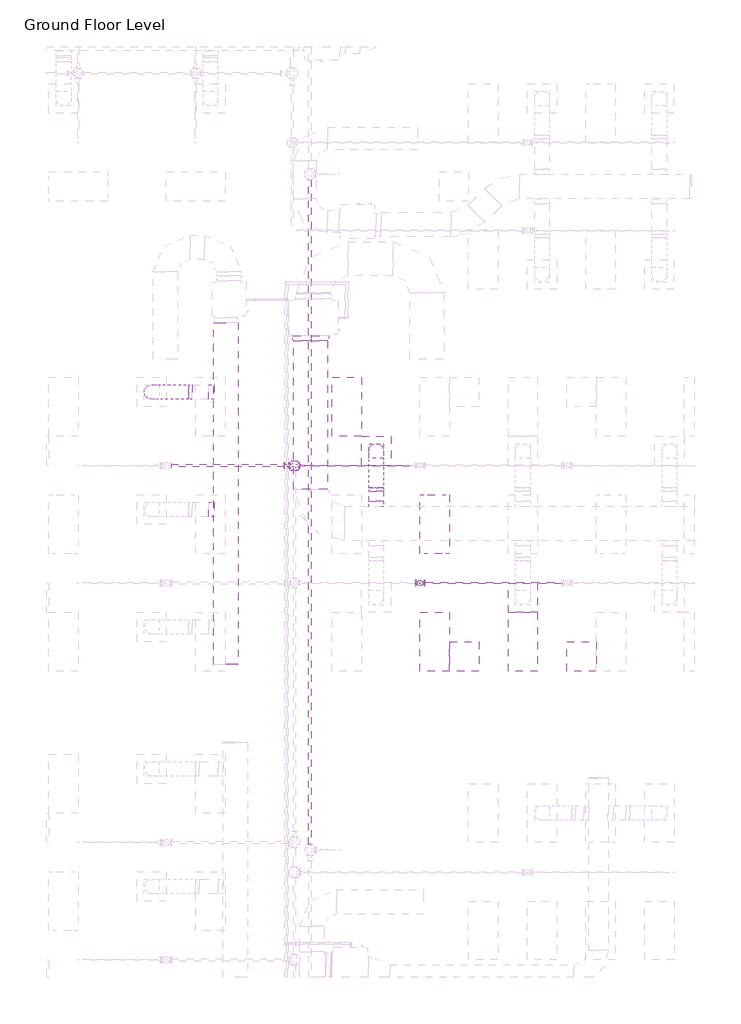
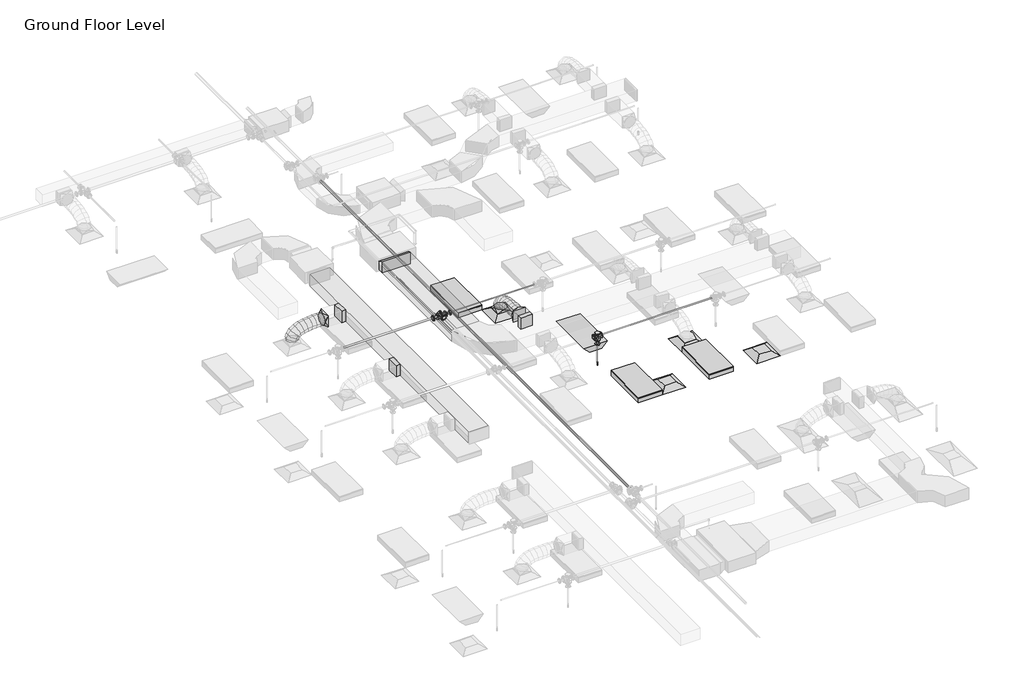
# One storey, part 30 of 66: 7 duct fittings, 5 duct segments, 5 pipe fittings, 5 pipe segments, 4 air terminals, 4 light fixtures, 1 fire suppression terminal.
"""IFC4 building model written with IfcOpenShell, lengths in millimetres."""

from ifc_helpers import new_model, si_unit, point, frame, frame_2d, origin, place, context, project, spatial, polyline, circle_curve, ellipse_curve, trimmed, segment, composite_curve, outline, extrude, transform, mapped, element, save
from ifc_brep_helpers import plane_surface, cylinder_surface, advanced_brep
from components import m_return_diffuser_600_x_600_face_300_x_300_connection_ff221211, m_rectangular_takeoff_standard_cb0ccb98, m_rectangular_takeoff_standard_2be5eba1, m_rectangular_transition_angle_45_degree_dd3c9227, m_rectangular_to_round_transition_angle_45_degree_641efff0, m_sprinkler_dry_pendent_hosted_15_mm_dry_pendent_9bda8e11, m_emergency_recessed_lighting_fixture_600x1200_277_5b10b25d, m_troffer_light_parabolic_rectangular1_0600x1200mm_4_lamp_86473d4a, m_reducer_flanged_cs_class_150_standard_ccf252ad, m_reducer_flanged_cs_class_150_standard_678fb8eb, m_reducer_flanged_cs_class_150_standard_84a20e65, m_tee_round_base_flanged_cs_class_150_standard_7e5987a1, m_tee_round_base_flanged_cs_class_150_standard_9c9133d0

model = new_model("IFC4")

# Units and contexts
model_context = context("Model", 3, world=origin())
ifc_project = project(units=[si_unit("LENGTHUNIT", "METRE", prefix="MILLI")], contexts=[model_context])

# Site, building, storey
site = spatial("IfcSite", under=ifc_project)
building = spatial("IfcBuilding", under=site)
storey = spatial("IfcBuildingStorey", under=building, Name="Ground Floor Level", Elevation=900.0)

# Air terminals
placement = place(None, origin())
m_return_diffuser_600_x_600_face_300_x_300_connection_shape = m_return_diffuser_600_x_600_face_300_x_300_connection_ff221211(model_context)
element("IfcAirTerminal", 1, ObjectType="M_Return Diffuser : 600 x 600 Face 300 x 300 Connection", at=placement, inside=storey, context=model_context, shape_type="MappedRepresentation", body=[
    mapped(m_return_diffuser_600_x_600_face_300_x_300_connection_shape, transform((9152.7672395, -14864.7846466, 3650.0), x_axis=(1.0, 0.0, 0.0), y_axis=(0.0, 1.0, 0.0), z_axis=(0.0, 0.0, 1.0))),
])
element("IfcAirTerminal", 2, ObjectType="M_Return Diffuser : 600 x 600 Face 300 x 300 Connection", at=placement, inside=storey, context=model_context, shape_type="MappedRepresentation", body=[
    mapped(m_return_diffuser_600_x_600_face_300_x_300_connection_shape, transform((11552.7672395, -14864.7846466, 3650.0), x_axis=(1.0, 0.0, 0.0), y_axis=(0.0, 1.0, 0.0), z_axis=(0.0, 0.0, 1.0))),
])
element("IfcAirTerminal", 3, ObjectType="M_Supply Diffuser : 600 x 600 Face 300 x 300 Connection", at=placement, inside=storey, context=model_context, shape_type="MappedRepresentation", body=[
    mapped(m_return_diffuser_600_x_600_face_300_x_300_connection_shape, transform((7352.7672395, -10664.7846466, 3650.0), x_axis=(1.0, 0.0, 0.0), y_axis=(0.0, 1.0, 0.0), z_axis=(0.0, 0.0, 1.0))),
])
element("IfcAirTerminal", 4, ObjectType="M_Supply Diffuser : 600 x 600 Face 300 x 300 Connection", at=placement, inside=storey, context=model_context, shape_type="MappedRepresentation", body=[
    mapped(m_return_diffuser_600_x_600_face_300_x_300_connection_shape, transform((10352.7672395, -13664.7846466, 3650.0), x_axis=(1.0, 0.0, 0.0), y_axis=(0.0, 1.0, 0.0), z_axis=(0.0, 0.0, 1.0))),
])

# Duct fittings
m_rectangular_takeoff_standard_shape = m_rectangular_takeoff_standard_cb0ccb98(model_context)
element("IfcDuctFitting", 5, ObjectType="M_Rectangular Takeoff : Standard", at=placement, inside=storey, context=model_context, shape_type="MappedRepresentation", body=[
    mapped(m_rectangular_takeoff_standard_shape, transform((7352.7672395, -11799.3358641, 4099.9875), x_axis=(0.0, 1.0, 0.0), y_axis=(1.0, 0.0, 0.0), z_axis=(0.0, 0.0, -1.0))),
])
m_rectangular_takeoff_standard_2_shape = m_rectangular_takeoff_standard_2be5eba1(model_context)
element("IfcDuctFitting", 6, ObjectType="M_Rectangular Takeoff : Standard", at=placement, inside=storey, context=model_context, shape_type="MappedRepresentation", body=[
    mapped(m_rectangular_takeoff_standard_2_shape, transform((4032.1581888, -9464.7846466, 4099.9974383), x_axis=(-1.0, 0.0, 0.0), y_axis=(0.0, 1.0, 0.0), z_axis=(0.0, 0.0, -1.0))),
])
element("IfcDuctFitting", 7, ObjectType="M_Rectangular Takeoff : Standard", at=placement, inside=storey, context=model_context, shape_type="MappedRepresentation", body=[
    mapped(m_rectangular_takeoff_standard_2_shape, transform((4032.1581888, -11864.7846466, 4099.9931113), x_axis=(-1.0, 0.0, 0.0), y_axis=(0.0, 1.0, 0.0), z_axis=(0.0, 0.0, -1.0))),
])
m_rectangular_transition_angle_45_degree_shape = m_rectangular_transition_angle_45_degree_dd3c9227(model_context)
element("IfcDuctFitting", 8, ObjectType="M_Rectangular Transition - Angle : 45 Degree", at=placement, inside=storey, context=model_context, shape_type="MappedRepresentation", body=[
    mapped(m_rectangular_transition_angle_45_degree_shape, transform((6009.9139492, -8309.3358641, 4100.0), x_axis=(0.0, -1.0, 0.0), y_axis=(1.0, 0.0, 0.0), z_axis=(0.0, 0.0, 1.0))),
])
m_rectangular_to_round_transition_angle_45_degree_shape = m_rectangular_to_round_transition_angle_45_degree_641efff0(model_context)
element("IfcDuctFitting", 9, ObjectType="M_Rectangular to Round Transition - Angle : 45 Degree", at=placement, inside=storey, context=model_context, shape_type="MappedRepresentation", body=[
    mapped(m_rectangular_to_round_transition_angle_45_degree_shape, transform((3590.1057325, -9464.7846466, 4099.9974383), x_axis=(-1.0, 0.0, 0.0), y_axis=(0.0, -1.0, 0.0), z_axis=(0.0, 0.0, 1.0))),
])
element("IfcDuctFitting", 10, ObjectType="M_Rectangular to Round Transition - Angle : 45 Degree", at=placement, inside=storey, context=model_context, shape_type="MappedRepresentation", body=[
    mapped(m_rectangular_to_round_transition_angle_45_degree_shape, transform((7352.7672395, -10664.7846466, 3751.6), x_axis=(0.0, 0.0, 1.0), y_axis=(-1.0, 0.0, 0.0), z_axis=(0.0, -1.0, 0.0))),
])
element("IfcDuctFitting", 11, ObjectType="M_Rectangular to Round Transition - Angle : 45 Degree", at=placement, inside=storey, context=model_context, shape_type="MappedRepresentation", body=[
    mapped(m_rectangular_to_round_transition_angle_45_degree_shape, transform((7352.7672395, -11492.1330779, 4099.9875), x_axis=(0.0, 1.0, 0.0), y_axis=(-1.0, 0.0, 0.0), z_axis=(0.0, 0.0, 1.0))),
])

# Duct segments
element("IfcDuctSegment", 12, ObjectType="Flex - Round", at=placement, inside=storey, context=model_context, shape_type="AdvancedBrep", body=[
    advanced_brep(
    [(2912.7672395, -9464.7846466, 3826.6), (2762.7672395, -9614.7846466, 3826.6), (2612.7672395, -9464.7846466, 3826.6), (2762.7672395, -9314.7846466, 3826.6), (2912.7672395, -9464.7846466, 3832.2944653), (2762.7672395, -9614.7846466, 3857.937819), (2612.7672395, -9464.7846466, 3883.5811727), (2762.7672395, -9314.7846466, 3857.937819), (2913.5210607, -9464.7846466, 3834.4347571), (2779.7832431, -9614.7846466, 3906.2506195), (2646.0454255, -9464.7846466, 3978.066482), (2779.7832431, -9314.7846466, 3906.2506195), (2931.1727776, -9464.7846466, 3857.8014637), (2826.9673168, -9614.7846466, 3968.7111959), (2722.761856, -9464.7846466, 4079.620928), (2826.9673168, -9314.7846466, 3968.7111959), (2967.4569198, -9464.7846466, 3881.8155831), (2898.5235552, -9614.7846466, 4016.0696268), (2829.5901905, -9464.7846466, 4150.3236705), (2898.5235552, -9314.7846466, 4016.0696268), (3032.2160605, -9464.7846466, 3906.4914754), (2988.6560526, -9614.7846466, 4050.4138102), (2945.0960447, -9464.7846466, 4194.336145), (2988.6560526, -9314.7846466, 4050.4138102), (3118.1291117, -9464.7846466, 3926.0410022), (3091.5689036, -9614.7846466, 4073.8316439), (3065.0086955, -9464.7846466, 4221.6222855), (3091.5689036, -9314.7846466, 4073.8316439), (3216.6164827, -9464.7846466, 3939.1067008), (3201.4662026, -9614.7846466, 4088.4110257), (3186.3159225, -9464.7846466, 4237.7153505), (3201.4662026, -9314.7846466, 4088.4110257), (3320.0568882, -9464.7846466, 3946.3967129), (3312.5520441, -9614.7846466, 4096.2398535), (3305.0472001, -9464.7846466, 4246.0829941), (3312.5520441, -9314.7846466, 4096.2398535), (3421.7217312, -9464.7846466, 3949.4197495), (3419.0305226, -9614.7846466, 4099.4060251), (3416.339314, -9464.7846466, 4249.3923007), (3419.0305226, -9314.7846466, 4099.4060251), (3516.0290748, -9464.7846466, 3950.0002802), (3515.1057325, -9614.7846466, 4099.9974383), (3514.1823902, -9464.7846466, 4249.9945964), (3515.1057325, -9314.7846466, 4099.9974383)],
    [
        (0, 1, circle_curve(frame((2762.7672395, -9464.7846466, 3826.6), z_axis=(0.0, 0.0, -1.0), x_axis=(1.0, 0.0, 0.0)), 150.0)),
        (1, 2, circle_curve(frame((2762.7672395, -9464.7846466, 3826.6), z_axis=(0.0, 0.0, -1.0), x_axis=(1.0, 0.0, 0.0)), 150.0)),
        (2, 3, circle_curve(frame((2762.7672395, -9464.7846466, 3826.6), z_axis=(0.0, 0.0, -1.0), x_axis=(1.0, 0.0, 0.0)), 150.0)),
        (3, 0, circle_curve(frame((2762.7672395, -9464.7846466, 3826.6), z_axis=(0.0, 0.0, -1.0), x_axis=(1.0, 0.0, 0.0)), 150.0)),
        (0, 4),
        (4, 5, ellipse_curve(frame((2762.7672395, -9464.7846466, 3857.937819), z_axis=(-0.1685109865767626, 0.0, -0.9856997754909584), x_axis=(0.9856997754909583, 0.0, -0.16851098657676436)), 152.1761532, 150.0)),
        (5, 1),
        (5, 6, ellipse_curve(frame((2762.7672395, -9464.7846466, 3857.937819), z_axis=(-0.1685109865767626, 0.0, -0.9856997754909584), x_axis=(0.9856997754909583, 0.0, -0.16851098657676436)), 152.1761532, 150.0)),
        (6, 2),
        (6, 7, ellipse_curve(frame((2762.7672395, -9464.7846466, 3857.937819), z_axis=(-0.1685109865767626, 0.0, -0.9856997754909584), x_axis=(0.9856997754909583, 0.0, -0.16851098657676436)), 152.1761532, 150.0)),
        (7, 3),
        (7, 4, ellipse_curve(frame((2762.7672395, -9464.7846466, 3857.937819), z_axis=(-0.1685109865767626, 0.0, -0.9856997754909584), x_axis=(0.9856997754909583, 0.0, -0.16851098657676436)), 152.1761532, 150.0)),
        (4, 8),
        (8, 9, ellipse_curve(frame((2779.7832431, -9464.7846466, 3906.2506195), z_axis=(-0.47309443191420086, 0.0, -0.8810117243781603), x_axis=(0.8810117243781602, 0.0, -0.4730944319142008)), 151.80027, 150.0)),
        (9, 5),
        (9, 10, ellipse_curve(frame((2779.7832431, -9464.7846466, 3906.2506195), z_axis=(-0.47309443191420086, 0.0, -0.8810117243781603), x_axis=(0.8810117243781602, 0.0, -0.4730944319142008)), 151.80027, 150.0)),
        (10, 6),
        (10, 11, ellipse_curve(frame((2779.7832431, -9464.7846466, 3906.2506195), z_axis=(-0.47309443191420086, 0.0, -0.8810117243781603), x_axis=(0.8810117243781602, 0.0, -0.4730944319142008)), 151.80027, 150.0)),
        (11, 7),
        (11, 8, ellipse_curve(frame((2779.7832431, -9464.7846466, 3906.2506195), z_axis=(-0.47309443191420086, 0.0, -0.8810117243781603), x_axis=(0.8810117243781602, 0.0, -0.4730944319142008)), 151.80027, 150.0)),
        (8, 12),
        (12, 13, ellipse_curve(frame((2826.9673168, -9464.7846466, 3968.7111959), z_axis=(-0.7287905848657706, 0.0, -0.6847366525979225), x_axis=(0.6847366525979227, 0.0, -0.7287905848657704)), 152.1832669, 150.0)),
        (13, 9),
        (13, 14, ellipse_curve(frame((2826.9673168, -9464.7846466, 3968.7111959), z_axis=(-0.7287905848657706, 0.0, -0.6847366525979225), x_axis=(0.6847366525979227, 0.0, -0.7287905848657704)), 152.1832669, 150.0)),
        (14, 10),
        (14, 15, ellipse_curve(frame((2826.9673168, -9464.7846466, 3968.7111959), z_axis=(-0.7287905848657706, 0.0, -0.6847366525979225), x_axis=(0.6847366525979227, 0.0, -0.7287905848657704)), 152.1832669, 150.0)),
        (15, 11),
        (15, 12, ellipse_curve(frame((2826.9673168, -9464.7846466, 3968.7111959), z_axis=(-0.7287905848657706, 0.0, -0.6847366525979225), x_axis=(0.6847366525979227, 0.0, -0.7287905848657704)), 152.1832669, 150.0)),
        (12, 16),
        (16, 17, ellipse_curve(frame((2898.5235552, -9464.7846466, 4016.0696268), z_axis=(-0.8895882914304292, 0.0, -0.45676325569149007), x_axis=(0.45676325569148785, 0.0, -0.8895882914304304)), 150.9170535, 150.0)),
        (17, 13),
        (17, 18, ellipse_curve(frame((2898.5235552, -9464.7846466, 4016.0696268), z_axis=(-0.8895882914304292, 0.0, -0.45676325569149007), x_axis=(0.45676325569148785, 0.0, -0.8895882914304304)), 150.9170535, 150.0)),
        (18, 14),
        (18, 19, ellipse_curve(frame((2898.5235552, -9464.7846466, 4016.0696268), z_axis=(-0.8895882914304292, 0.0, -0.45676325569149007), x_axis=(0.45676325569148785, 0.0, -0.8895882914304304)), 150.9170535, 150.0)),
        (19, 15),
        (19, 16, ellipse_curve(frame((2898.5235552, -9464.7846466, 4016.0696268), z_axis=(-0.8895882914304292, 0.0, -0.45676325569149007), x_axis=(0.45676325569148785, 0.0, -0.8895882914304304)), 150.9170535, 150.0)),
        (16, 20),
        (20, 21, ellipse_curve(frame((2988.6560526, -9464.7846466, 4050.4138102), z_axis=(-0.9571218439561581, 0.0, -0.2896856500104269), x_axis=(0.28968565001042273, 0.0, -0.9571218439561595)), 150.3699197, 150.0)),
        (21, 17),
        (21, 22, ellipse_curve(frame((2988.6560526, -9464.7846466, 4050.4138102), z_axis=(-0.9571218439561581, 0.0, -0.2896856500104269), x_axis=(0.28968565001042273, 0.0, -0.9571218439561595)), 150.3699197, 150.0)),
        (22, 18),
        (22, 23, ellipse_curve(frame((2988.6560526, -9464.7846466, 4050.4138102), z_axis=(-0.9571218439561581, 0.0, -0.2896856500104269), x_axis=(0.28968565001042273, 0.0, -0.9571218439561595)), 150.3699197, 150.0)),
        (23, 19),
        (23, 20, ellipse_curve(frame((2988.6560526, -9464.7846466, 4050.4138102), z_axis=(-0.9571218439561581, 0.0, -0.2896856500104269), x_axis=(0.28968565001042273, 0.0, -0.9571218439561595)), 150.3699197, 150.0)),
        (20, 24),
        (24, 25, ellipse_curve(frame((3091.5689036, -9464.7846466, 4073.8316439), z_axis=(-0.9842321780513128, 0.0, -0.1768813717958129), x_axis=(0.17688137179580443, 0.0, -0.9842321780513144)), 150.1583111, 150.0)),
        (25, 21),
        (25, 26, ellipse_curve(frame((3091.5689036, -9464.7846466, 4073.8316439), z_axis=(-0.9842321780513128, 0.0, -0.1768813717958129), x_axis=(0.17688137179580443, 0.0, -0.9842321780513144)), 150.1583111, 150.0)),
        (26, 22),
        (26, 27, ellipse_curve(frame((3091.5689036, -9464.7846466, 4073.8316439), z_axis=(-0.9842321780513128, 0.0, -0.1768813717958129), x_axis=(0.17688137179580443, 0.0, -0.9842321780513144)), 150.1583111, 150.0)),
        (27, 23),
        (27, 24, ellipse_curve(frame((3091.5689036, -9464.7846466, 4073.8316439), z_axis=(-0.9842321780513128, 0.0, -0.1768813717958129), x_axis=(0.17688137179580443, 0.0, -0.9842321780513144)), 150.1583111, 150.0)),
        (24, 28),
        (28, 29, ellipse_curve(frame((3201.4662026, -9464.7846466, 4088.4110257), z_axis=(-0.994891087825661, 0.0, -0.10095406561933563), x_axis=(0.10095406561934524, 0.0, -0.99489108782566)), 150.0710245, 150.0)),
        (29, 25),
        (29, 30, ellipse_curve(frame((3201.4662026, -9464.7846466, 4088.4110257), z_axis=(-0.994891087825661, 0.0, -0.10095406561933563), x_axis=(0.10095406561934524, 0.0, -0.99489108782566)), 150.0710245, 150.0)),
        (30, 26),
        (30, 31, ellipse_curve(frame((3201.4662026, -9464.7846466, 4088.4110257), z_axis=(-0.994891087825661, 0.0, -0.10095406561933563), x_axis=(0.10095406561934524, 0.0, -0.99489108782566)), 150.0710245, 150.0)),
        (31, 27),
        (31, 28, ellipse_curve(frame((3201.4662026, -9464.7846466, 4088.4110257), z_axis=(-0.994891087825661, 0.0, -0.10095406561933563), x_axis=(0.10095406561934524, 0.0, -0.99489108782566)), 150.0710245, 150.0)),
        (28, 32),
        (32, 33, ellipse_curve(frame((3312.5520441, -9464.7846466, 4096.2398535), z_axis=(-0.9987481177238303, 0.0, -0.05002196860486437), x_axis=(0.05002196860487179, 0.0, -0.9987481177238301)), 150.0309617, 150.0)),
        (33, 29),
        (33, 34, ellipse_curve(frame((3312.5520441, -9464.7846466, 4096.2398535), z_axis=(-0.9987481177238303, 0.0, -0.05002196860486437), x_axis=(0.05002196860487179, 0.0, -0.9987481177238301)), 150.0309617, 150.0)),
        (34, 30),
        (34, 35, ellipse_curve(frame((3312.5520441, -9464.7846466, 4096.2398535), z_axis=(-0.9987481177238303, 0.0, -0.05002196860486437), x_axis=(0.05002196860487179, 0.0, -0.9987481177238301)), 150.0309617, 150.0)),
        (35, 31),
        (35, 32, ellipse_curve(frame((3312.5520441, -9464.7846466, 4096.2398535), z_axis=(-0.9987481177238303, 0.0, -0.05002196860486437), x_axis=(0.05002196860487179, 0.0, -0.9987481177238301)), 150.0309617, 150.0)),
        (32, 36),
        (36, 37, ellipse_curve(frame((3419.0305226, -9464.7846466, 4099.4060251), z_axis=(-0.9998390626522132, 0.0, -0.01794014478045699), x_axis=(0.017940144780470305, 0.0, -0.9998390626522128)), 150.0104179, 150.0)),
        (37, 33),
        (37, 38, ellipse_curve(frame((3419.0305226, -9464.7846466, 4099.4060251), z_axis=(-0.9998390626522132, 0.0, -0.01794014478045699), x_axis=(0.017940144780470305, 0.0, -0.9998390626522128)), 150.0104179, 150.0)),
        (38, 34),
        (38, 39, ellipse_curve(frame((3419.0305226, -9464.7846466, 4099.4060251), z_axis=(-0.9998390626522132, 0.0, -0.01794014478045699), x_axis=(0.017940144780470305, 0.0, -0.9998390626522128)), 150.0104179, 150.0)),
        (39, 35),
        (39, 36, ellipse_curve(frame((3419.0305226, -9464.7846466, 4099.4060251), z_axis=(-0.9998390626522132, 0.0, -0.01794014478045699), x_axis=(0.017940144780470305, 0.0, -0.9998390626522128)), 150.0104179, 150.0)),
        (36, 40),
        (40, 41, circle_curve(frame((3515.1057325, -9464.7846466, 4099.9974383), z_axis=(-0.9999810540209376, 0.0, -0.006155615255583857), x_axis=(0.006155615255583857, 0.0, -0.9999810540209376)), 150.0)),
        (41, 37),
        (41, 42, circle_curve(frame((3515.1057325, -9464.7846466, 4099.9974383), z_axis=(-0.9999810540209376, 0.0, -0.006155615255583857), x_axis=(0.006155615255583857, 0.0, -0.9999810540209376)), 150.0)),
        (42, 38),
        (42, 43, circle_curve(frame((3515.1057325, -9464.7846466, 4099.9974383), z_axis=(-0.9999810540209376, 0.0, -0.006155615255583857), x_axis=(0.006155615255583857, 0.0, -0.9999810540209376)), 150.0)),
        (43, 39),
        (43, 40, circle_curve(frame((3515.1057325, -9464.7846466, 4099.9974383), z_axis=(-0.9999810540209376, 0.0, -0.006155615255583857), x_axis=(0.006155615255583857, 0.0, -0.9999810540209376)), 150.0)),
    ],
    [
        plane_surface(frame((2762.7672395, -9614.7846466, 3826.6), z_axis=(0.0, 0.0, -1.0), x_axis=(1.0, 0.0, 0.0))),
        cylinder_surface(frame((2762.7672395, -9464.7846466, 3826.6), z_axis=(0.0, 0.0, -1.0), x_axis=(1.0, 0.0, 0.0)), 150.0),
        cylinder_surface(frame((2762.7672395, -9464.7846466, 3857.937819), z_axis=(-0.3322024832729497, 0.0, -0.9432080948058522), x_axis=(0.9432080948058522, 0.0, -0.3322024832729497)), 150.0),
        cylinder_surface(frame((2779.7832431, -9464.7846466, 3906.2506195), z_axis=(-0.6027650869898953, 0.0, -0.7979186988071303), x_axis=(0.7979186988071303, 0.0, -0.6027650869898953)), 150.0),
        cylinder_surface(frame((2826.9673168, -9464.7846466, 3968.7111959), z_axis=(-0.8339051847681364, 0.0, -0.5519077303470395), x_axis=(0.5519077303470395, 0.0, -0.8339051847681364)), 150.0),
        cylinder_surface(frame((2898.5235552, -9464.7846466, 4016.0696268), z_axis=(-0.9344601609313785, 0.0, -0.3560677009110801), x_axis=(0.3560677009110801, 0.0, -0.9344601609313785)), 150.0),
        cylinder_surface(frame((2988.6560526, -9464.7846466, 4050.4138102), z_axis=(-0.9750743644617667, 0.0, -0.22187830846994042), x_axis=(0.22187830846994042, 0.0, -0.9750743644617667)), 150.0),
        cylinder_surface(frame((3091.5689036, -9464.7846466, 4073.8316439), z_axis=(-0.9913146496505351, 0.0, -0.13151146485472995), x_axis=(0.13151146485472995, 0.0, -0.9913146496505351)), 150.0),
        cylinder_surface(frame((3201.4662026, -9464.7846466, 4088.4110257), z_axis=(-0.99752581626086, 0.0, -0.07030110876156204), x_axis=(0.07030110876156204, 0.0, -0.99752581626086)), 150.0),
        cylinder_surface(frame((3312.5520441, -9464.7846466, 4096.2398535), z_axis=(-0.9995581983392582, 0.0, -0.029722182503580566), x_axis=(0.029722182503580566, 0.0, -0.9995581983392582)), 150.0),
        cylinder_surface(frame((3419.0305226, -9464.7846466, 4099.4060251), z_axis=(-0.9999810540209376, 0.0, -0.006155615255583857), x_axis=(0.006155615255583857, 0.0, -0.9999810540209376)), 150.0),
        plane_surface(frame((3515.1057325, -9614.7846466, 4099.9974383), z_axis=(0.9999810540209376, 0.0, 0.006155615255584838), x_axis=(0.006155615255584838, 0.0, -0.9999810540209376))),
    ],
    [
        (0, [[1, 2, 3, 4]]),
        (1, [[-1, 5, 6, 7]]),
        (1, [[-2, -7, 8, 9]]),
        (1, [[-3, -9, 10, 11]]),
        (1, [[-4, -11, 12, -5]]),
        (2, [[-6, 13, 14, 15]]),
        (2, [[-8, -15, 16, 17]]),
        (2, [[-10, -17, 18, 19]]),
        (2, [[-12, -19, 20, -13]]),
        (3, [[-14, 21, 22, 23]]),
        (3, [[-16, -23, 24, 25]]),
        (3, [[-18, -25, 26, 27]]),
        (3, [[-20, -27, 28, -21]]),
        (4, [[-22, 29, 30, 31]]),
        (4, [[-24, -31, 32, 33]]),
        (4, [[-26, -33, 34, 35]]),
        (4, [[-28, -35, 36, -29]]),
        (5, [[-30, 37, 38, 39]]),
        (5, [[-32, -39, 40, 41]]),
        (5, [[-34, -41, 42, 43]]),
        (5, [[-36, -43, 44, -37]]),
        (6, [[-38, 45, 46, 47]]),
        (6, [[-40, -47, 48, 49]]),
        (6, [[-42, -49, 50, 51]]),
        (6, [[-44, -51, 52, -45]]),
        (7, [[-46, 53, 54, 55]]),
        (7, [[-48, -55, 56, 57]]),
        (7, [[-50, -57, 58, 59]]),
        (7, [[-52, -59, 60, -53]]),
        (8, [[-54, 61, 62, 63]]),
        (8, [[-56, -63, 64, 65]]),
        (8, [[-58, -65, 66, 67]]),
        (8, [[-60, -67, 68, -61]]),
        (9, [[-62, 69, 70, 71]]),
        (9, [[-64, -71, 72, 73]]),
        (9, [[-66, -73, 74, 75]]),
        (9, [[-68, -75, 76, -69]]),
        (10, [[-70, 77, 78, 79]]),
        (10, [[-72, -79, 80, 81]]),
        (10, [[-74, -81, 82, 83]]),
        (10, [[-76, -83, 84, -77]]),
        (11, [[-84, -82, -80, -78]]),
    ],
),
])
element("IfcDuctSegment", 13, ObjectType="Flex - Round", at=placement, inside=storey, context=model_context, shape_type="AdvancedBrep", body=[
    advanced_brep(
    [(7502.7672395, -10664.7846466, 3826.6), (7352.7672395, -10814.7846466, 3826.6), (7202.7672395, -10664.7846466, 3826.6), (7352.7672395, -10514.7846466, 3826.6), (7502.7672395, -10664.7846466, 3857.9382361), (7352.7672395, -10814.7846466, 3832.2943726), (7202.7672395, -10664.7846466, 3857.9382361), (7352.7672395, -10514.7846466, 3883.5820996), (7502.7672395, -10681.8009258, 3906.2508008), (7352.7672395, -10815.5381175, 3834.4336246), (7202.7672395, -10681.8009258, 3906.2508008), (7352.7672395, -10548.0637341, 3978.0679769), (7502.7672395, -10728.9857498, 3968.710741), (7352.7672395, -10833.1895095, 3857.7992917), (7202.7672395, -10728.9857498, 3968.710741), (7352.7672395, -10624.78199, 4079.6221903), (7502.7672395, -10800.5430984, 4016.0679312), (7352.7672395, -10869.4737825, 3881.8124958), (7202.7672395, -10800.5430984, 4016.0679312), (7352.7672395, -10731.6124143, 4150.3233665), (7502.7672395, -10890.6769515, 4050.4104815), (7352.7672395, -10934.2340294, 3906.4872652), (7202.7672395, -10890.6769515, 4050.4104815), (7352.7672395, -10847.1198737, 4194.3336978), (7502.7672395, -10993.591289, 4073.8265025), (7352.7672395, -11020.1487195, 3926.0353694), (7202.7672395, -10993.591289, 4073.8265025), (7352.7672395, -10967.0338584, 4221.6176356), (7502.7672395, -11103.4900905, 4088.4041045), (7352.7672395, -11118.6379564, 3939.0995418), (7202.7672395, -11103.4900905, 4088.4041045), (7352.7672395, -11088.3422246, 4237.7086671), (7502.7672395, -11214.5773359, 4096.2313978), (7352.7672395, -11222.0803018, 3946.3881695), (7202.7672395, -11214.5773359, 4096.2313978), (7352.7672395, -11207.0743701, 4246.074626), (7502.7672395, -11321.0570051, 4099.3964928), (7352.7672395, -11323.7471101, 3949.4102029), (7202.7672395, -11321.0570051, 4099.3964928), (7352.7672395, -11318.3669002, 4249.3827828), (7502.7672395, -11417.1330779, 4099.9875), (7352.7672395, -11416.2103779, 4249.9846621), (7202.7672395, -11417.1330779, 4099.9875), (7352.7672395, -11418.0557779, 3949.9903379)],
    [
        (0, 1, circle_curve(frame((7352.7672395, -10664.7846466, 3826.6), z_axis=(0.0, 0.0, -1.0), x_axis=(1.0, 0.0, 0.0)), 150.0)),
        (1, 2, circle_curve(frame((7352.7672395, -10664.7846466, 3826.6), z_axis=(0.0, 0.0, -1.0), x_axis=(1.0, 0.0, 0.0)), 150.0)),
        (2, 3, circle_curve(frame((7352.7672395, -10664.7846466, 3826.6), z_axis=(0.0, 0.0, -1.0), x_axis=(1.0, 0.0, 0.0)), 150.0)),
        (3, 0, circle_curve(frame((7352.7672395, -10664.7846466, 3826.6), z_axis=(0.0, 0.0, -1.0), x_axis=(1.0, 0.0, 0.0)), 150.0)),
        (0, 4),
        (4, 5, ellipse_curve(frame((7352.7672395, -10664.7846466, 3857.9382361), z_axis=(0.0, 0.16851424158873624, -0.9856992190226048), x_axis=(0.0, -0.9856992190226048, -0.16851424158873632)), 152.1762391, 150.0)),
        (5, 1),
        (5, 6, ellipse_curve(frame((7352.7672395, -10664.7846466, 3857.9382361), z_axis=(0.0, 0.16851424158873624, -0.9856992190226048), x_axis=(0.0, -0.9856992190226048, -0.16851424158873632)), 152.1762391, 150.0)),
        (6, 2),
        (6, 7, ellipse_curve(frame((7352.7672395, -10664.7846466, 3857.9382361), z_axis=(0.0, 0.16851424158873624, -0.9856992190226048), x_axis=(0.0, -0.9856992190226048, -0.16851424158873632)), 152.1762391, 150.0)),
        (7, 3),
        (7, 4, ellipse_curve(frame((7352.7672395, -10664.7846466, 3857.9382361), z_axis=(0.0, 0.16851424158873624, -0.9856992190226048), x_axis=(0.0, -0.9856992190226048, -0.16851424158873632)), 152.1762391, 150.0)),
        (4, 8),
        (8, 9, ellipse_curve(frame((7352.7672395, -10681.8009258, 3906.2508008), z_axis=(0.0, 0.4731028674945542, -0.8810071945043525), x_axis=(0.0, -0.8810071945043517, -0.47310286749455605)), 151.80034, 150.0)),
        (9, 5),
        (9, 10, ellipse_curve(frame((7352.7672395, -10681.8009258, 3906.2508008), z_axis=(0.0, 0.4731028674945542, -0.8810071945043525), x_axis=(0.0, -0.8810071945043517, -0.47310286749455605)), 151.80034, 150.0)),
        (10, 6),
        (10, 11, ellipse_curve(frame((7352.7672395, -10681.8009258, 3906.2508008), z_axis=(0.0, 0.4731028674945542, -0.8810071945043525), x_axis=(0.0, -0.8810071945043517, -0.47310286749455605)), 151.80034, 150.0)),
        (11, 7),
        (11, 8, ellipse_curve(frame((7352.7672395, -10681.8009258, 3906.2508008), z_axis=(0.0, 0.4731028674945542, -0.8810071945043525), x_axis=(0.0, -0.8810071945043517, -0.47310286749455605)), 151.80034, 150.0)),
        (8, 12),
        (12, 13, ellipse_curve(frame((7352.7672395, -10728.9857498, 3968.710741), z_axis=(0.0, 0.7288014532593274, -0.6847250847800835), x_axis=(0.0, -0.6847250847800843, -0.7288014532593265)), 152.1833536, 150.0)),
        (13, 9),
        (13, 14, ellipse_curve(frame((7352.7672395, -10728.9857498, 3968.710741), z_axis=(0.0, 0.7288014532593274, -0.6847250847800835), x_axis=(0.0, -0.6847250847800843, -0.7288014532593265)), 152.1833536, 150.0)),
        (14, 10),
        (14, 15, ellipse_curve(frame((7352.7672395, -10728.9857498, 3968.710741), z_axis=(0.0, 0.7288014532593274, -0.6847250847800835), x_axis=(0.0, -0.6847250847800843, -0.7288014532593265)), 152.1833536, 150.0)),
        (15, 11),
        (15, 12, ellipse_curve(frame((7352.7672395, -10728.9857498, 3968.710741), z_axis=(0.0, 0.7288014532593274, -0.6847250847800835), x_axis=(0.0, -0.6847250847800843, -0.7288014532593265)), 152.1833536, 150.0)),
        (12, 16),
        (16, 17, ellipse_curve(frame((7352.7672395, -10800.5430984, 4016.0679312), z_axis=(0.0, 0.8895974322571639, -0.45674545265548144), x_axis=(0.0, -0.45674545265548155, -0.889597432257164)), 150.9170671, 150.0)),
        (17, 13),
        (17, 18, ellipse_curve(frame((7352.7672395, -10800.5430984, 4016.0679312), z_axis=(0.0, 0.8895974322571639, -0.45674545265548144), x_axis=(0.0, -0.45674545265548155, -0.889597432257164)), 150.9170671, 150.0)),
        (18, 14),
        (18, 19, ellipse_curve(frame((7352.7672395, -10800.5430984, 4016.0679312), z_axis=(0.0, 0.8895974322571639, -0.45674545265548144), x_axis=(0.0, -0.45674545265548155, -0.889597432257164)), 150.9170671, 150.0)),
        (19, 15),
        (19, 16, ellipse_curve(frame((7352.7672395, -10800.5430984, 4016.0679312), z_axis=(0.0, 0.8895974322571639, -0.45674545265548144), x_axis=(0.0, -0.45674545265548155, -0.889597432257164)), 150.9170671, 150.0)),
        (16, 20),
        (20, 21, ellipse_curve(frame((7352.7672395, -10890.6769515, 4050.4104815), z_axis=(0.0, 0.9571277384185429, -0.28966617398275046), x_axis=(0.0, -0.2896661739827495, -0.9571277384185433)), 150.3699146, 150.0)),
        (21, 17),
        (21, 22, ellipse_curve(frame((7352.7672395, -10890.6769515, 4050.4104815), z_axis=(0.0, 0.9571277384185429, -0.28966617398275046), x_axis=(0.0, -0.2896661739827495, -0.9571277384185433)), 150.3699146, 150.0)),
        (22, 18),
        (22, 23, ellipse_curve(frame((7352.7672395, -10890.6769515, 4050.4104815), z_axis=(0.0, 0.9571277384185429, -0.28966617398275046), x_axis=(0.0, -0.2896661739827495, -0.9571277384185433)), 150.3699146, 150.0)),
        (23, 19),
        (23, 20, ellipse_curve(frame((7352.7672395, -10890.6769515, 4050.4104815), z_axis=(0.0, 0.9571277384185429, -0.28966617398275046), x_axis=(0.0, -0.2896661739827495, -0.9571277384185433)), 150.3699146, 150.0)),
        (20, 24),
        (24, 25, ellipse_curve(frame((7352.7672395, -10993.591289, 4073.8265025), z_axis=(0.0, 0.9842355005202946, -0.17686288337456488), x_axis=(0.0, -0.17686288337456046, -0.9842355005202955)), 150.1583036, 150.0)),
        (25, 21),
        (25, 26, ellipse_curve(frame((7352.7672395, -10993.591289, 4073.8265025), z_axis=(0.0, 0.9842355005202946, -0.17686288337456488), x_axis=(0.0, -0.17686288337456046, -0.9842355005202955)), 150.1583036, 150.0)),
        (26, 22),
        (26, 27, ellipse_curve(frame((7352.7672395, -10993.591289, 4073.8265025), z_axis=(0.0, 0.9842355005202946, -0.17686288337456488), x_axis=(0.0, -0.17686288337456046, -0.9842355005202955)), 150.1583036, 150.0)),
        (27, 23),
        (27, 24, ellipse_curve(frame((7352.7672395, -10993.591289, 4073.8265025), z_axis=(0.0, 0.9842355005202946, -0.17686288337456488), x_axis=(0.0, -0.17686288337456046, -0.9842355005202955)), 150.1583036, 150.0)),
        (24, 28),
        (28, 29, ellipse_curve(frame((7352.7672395, -11103.4900905, 4088.4041045), z_axis=(0.0, 0.9948927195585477, -0.10093798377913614), x_axis=(0.0, -0.1009379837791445, -0.9948927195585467)), 150.0710174, 150.0)),
        (29, 25),
        (29, 30, ellipse_curve(frame((7352.7672395, -11103.4900905, 4088.4041045), z_axis=(0.0, 0.9948927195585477, -0.10093798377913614), x_axis=(0.0, -0.1009379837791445, -0.9948927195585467)), 150.0710174, 150.0)),
        (30, 26),
        (30, 31, ellipse_curve(frame((7352.7672395, -11103.4900905, 4088.4041045), z_axis=(0.0, 0.9948927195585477, -0.10093798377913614), x_axis=(0.0, -0.1009379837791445, -0.9948927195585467)), 150.0710174, 150.0)),
        (31, 27),
        (31, 28, ellipse_curve(frame((7352.7672395, -11103.4900905, 4088.4041045), z_axis=(0.0, 0.9948927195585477, -0.10093798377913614), x_axis=(0.0, -0.1009379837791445, -0.9948927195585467)), 150.0710174, 150.0)),
        (28, 32),
        (32, 33, ellipse_curve(frame((7352.7672395, -11214.5773359, 4096.2313978), z_axis=(0.0, 0.9987487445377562, -0.05000945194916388), x_axis=(0.0, -0.05000945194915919, -0.9987487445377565)), 150.0309553, 150.0)),
        (33, 29),
        (33, 34, ellipse_curve(frame((7352.7672395, -11214.5773359, 4096.2313978), z_axis=(0.0, 0.9987487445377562, -0.05000945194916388), x_axis=(0.0, -0.05000945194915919, -0.9987487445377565)), 150.0309553, 150.0)),
        (34, 30),
        (34, 35, ellipse_curve(frame((7352.7672395, -11214.5773359, 4096.2313978), z_axis=(0.0, 0.9987487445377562, -0.05000945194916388), x_axis=(0.0, -0.05000945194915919, -0.9987487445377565)), 150.0309553, 150.0)),
        (35, 31),
        (35, 32, ellipse_curve(frame((7352.7672395, -11214.5773359, 4096.2313978), z_axis=(0.0, 0.9987487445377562, -0.05000945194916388), x_axis=(0.0, -0.05000945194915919, -0.9987487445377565)), 150.0309553, 150.0)),
        (32, 36),
        (36, 37, ellipse_curve(frame((7352.7672395, -11321.0570051, 4099.3964928), z_axis=(0.0, 0.9998391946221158, -0.017932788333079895), x_axis=(0.0, -0.017932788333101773, -0.9998391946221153)), 150.0104124, 150.0)),
        (37, 33),
        (37, 38, ellipse_curve(frame((7352.7672395, -11321.0570051, 4099.3964928), z_axis=(0.0, 0.9998391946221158, -0.017932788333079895), x_axis=(0.0, -0.017932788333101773, -0.9998391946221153)), 150.0104124, 150.0)),
        (38, 34),
        (38, 39, ellipse_curve(frame((7352.7672395, -11321.0570051, 4099.3964928), z_axis=(0.0, 0.9998391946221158, -0.017932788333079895), x_axis=(0.0, -0.017932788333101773, -0.9998391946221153)), 150.0104124, 150.0)),
        (39, 35),
        (39, 36, ellipse_curve(frame((7352.7672395, -11321.0570051, 4099.3964928), z_axis=(0.0, 0.9998391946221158, -0.017932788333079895), x_axis=(0.0, -0.017932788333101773, -0.9998391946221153)), 150.0104124, 150.0)),
        (40, 41, circle_curve(frame((7352.7672395, -11417.1330779, 4099.9875), z_axis=(0.0, -0.999981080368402, 0.0061513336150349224), x_axis=(1.0, 0.0, 0.0)), 150.0)),
        (41, 42, circle_curve(frame((7352.7672395, -11417.1330779, 4099.9875), z_axis=(0.0, -0.999981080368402, 0.0061513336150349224), x_axis=(1.0, 0.0, 0.0)), 150.0)),
        (42, 43, circle_curve(frame((7352.7672395, -11417.1330779, 4099.9875), z_axis=(0.0, -0.999981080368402, 0.0061513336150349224), x_axis=(1.0, 0.0, 0.0)), 150.0)),
        (43, 40, circle_curve(frame((7352.7672395, -11417.1330779, 4099.9875), z_axis=(0.0, -0.999981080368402, 0.0061513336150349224), x_axis=(1.0, 0.0, 0.0)), 150.0)),
        (36, 40),
        (43, 37),
        (42, 38),
        (41, 39),
    ],
    [
        plane_surface(frame((7352.7672395, -10814.7846466, 3826.6), z_axis=(0.0, 0.0, -1.0), x_axis=(1.0, 0.0, 0.0))),
        cylinder_surface(frame((7352.7672395, -10664.7846466, 3826.6), z_axis=(0.0, 0.0, -1.0), x_axis=(1.0, 0.0, 0.0)), 150.0),
        cylinder_surface(frame((7352.7672395, -10664.7846466, 3857.9382361), z_axis=(0.0, 0.3322087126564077, -0.943205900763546), x_axis=(1.0, 0.0, 0.0)), 150.0),
        cylinder_surface(frame((7352.7672395, -10681.8009258, 3906.2508008), z_axis=(0.0, 0.6027750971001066, -0.797911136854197), x_axis=(1.0, 0.0, 0.0)), 150.0),
        cylinder_surface(frame((7352.7672395, -10728.9857498, 3968.710741), z_axis=(0.0, 0.8339157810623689, -0.5518917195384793), x_axis=(1.0, 0.0, 0.0)), 150.0),
        cylinder_surface(frame((7352.7672395, -10800.5430984, 4016.0679312), z_axis=(0.0, 0.9344675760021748, -0.3560482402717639), x_axis=(1.0, 0.0, 0.0)), 150.0),
        cylinder_surface(frame((7352.7672395, -10890.6769515, 4050.4104815), z_axis=(0.0, 0.9750787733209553, -0.22185893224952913), x_axis=(1.0, 0.0, 0.0)), 150.0),
        cylinder_surface(frame((7352.7672395, -10993.591289, 4073.8265025), z_axis=(0.0, 0.9913169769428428, -0.13149392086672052), x_axis=(1.0, 0.0, 0.0)), 150.0),
        cylinder_surface(frame((7352.7672395, -11103.4900905, 4088.4041045), z_axis=(0.0, 0.9975268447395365, -0.07028651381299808), x_axis=(1.0, 0.0, 0.0)), 150.0),
        cylinder_surface(frame((7352.7672395, -11214.5773359, 4096.2313978), z_axis=(0.0, 0.999558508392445, -0.029711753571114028), x_axis=(1.0, 0.0, 0.0)), 150.0),
        plane_surface(frame((7352.7672395, -11418.0557779, 3949.9903379), z_axis=(0.0, -0.999981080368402, 0.006151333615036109), x_axis=(1.0, 0.0, 0.0))),
        cylinder_surface(frame((7352.7672395, -11321.0570051, 4099.3964928), z_axis=(0.0, 0.999981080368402, -0.0061513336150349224), x_axis=(1.0, 0.0, 0.0)), 150.0),
    ],
    [
        (0, [[1, 2, 3, 4]]),
        (1, [[-1, 5, 6, 7]]),
        (1, [[-2, -7, 8, 9]]),
        (1, [[-3, -9, 10, 11]]),
        (1, [[-4, -11, 12, -5]]),
        (2, [[-6, 13, 14, 15]]),
        (2, [[-8, -15, 16, 17]]),
        (2, [[-10, -17, 18, 19]]),
        (2, [[-12, -19, 20, -13]]),
        (3, [[-14, 21, 22, 23]]),
        (3, [[-16, -23, 24, 25]]),
        (3, [[-18, -25, 26, 27]]),
        (3, [[-20, -27, 28, -21]]),
        (4, [[-22, 29, 30, 31]]),
        (4, [[-24, -31, 32, 33]]),
        (4, [[-26, -33, 34, 35]]),
        (4, [[-28, -35, 36, -29]]),
        (5, [[-30, 37, 38, 39]]),
        (5, [[-32, -39, 40, 41]]),
        (5, [[-34, -41, 42, 43]]),
        (5, [[-36, -43, 44, -37]]),
        (6, [[-38, 45, 46, 47]]),
        (6, [[-40, -47, 48, 49]]),
        (6, [[-42, -49, 50, 51]]),
        (6, [[-44, -51, 52, -45]]),
        (7, [[-46, 53, 54, 55]]),
        (7, [[-48, -55, 56, 57]]),
        (7, [[-50, -57, 58, 59]]),
        (7, [[-52, -59, 60, -53]]),
        (8, [[-54, 61, 62, 63]]),
        (8, [[-56, -63, 64, 65]]),
        (8, [[-58, -65, 66, 67]]),
        (8, [[-60, -67, 68, -61]]),
        (9, [[-62, 69, 70, 71]]),
        (9, [[-64, -71, 72, 73]]),
        (9, [[-66, -73, 74, 75]]),
        (9, [[-68, -75, 76, -69]]),
        (10, [[77, 78, 79, 80]]),
        (11, [[-70, 81, -80, 82]]),
        (11, [[-72, -82, -79, 83]]),
        (11, [[-74, -83, -78, 84]]),
        (11, [[-76, -84, -77, -81]]),
    ],
),
])
element("IfcDuctSegment", 14, ObjectType="Radius Elbows / Taps", at=placement, inside=storey, context=model_context, shape_type="SweptSolid", body=[
    extrude(outline(polyline([(0.0, -500.0), (0.0, 0.0), (6976.5207712, 0.0), (6976.5207712, -500.0), (0.0, -500.0)])), frame((4532.1581888, -8043.9355937, 3950.0), z_axis=(0.0, -1.802936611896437e-06, 0.9999999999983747), x_axis=(0.0, -0.9999999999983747, -1.802936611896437e-06)), (0.0, 0.0, 1.0), 300.0),
])
element("IfcDuctSegment", 15, ObjectType="Radius Elbows / Taps", at=placement, inside=storey, context=model_context, shape_type="SweptSolid", body=[
    extrude(outline(polyline([(0.0, -700.0), (0.0, 0.0), (3036.5207712, 0.0), (3036.5207712, -700.0), (0.0, -700.0)])), frame((6359.9139492, -8412.8145893, 3950.0), z_axis=(0.0, -3.3575460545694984e-06, 0.9999999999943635), x_axis=(0.0, -0.9999999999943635, -3.3575460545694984e-06)), (0.0, 0.0, 1.0), 300.0),
])
element("IfcDuctSegment", 16, ObjectType="Radius Elbows / Taps", at=placement, inside=storey, context=model_context, shape_type="SweptSolid", body=[
    extrude(outline(polyline([(7502.7672395, -11697.7358641), (7202.7672395, -11697.7358641), (7202.7672395, -11492.1330779), (7502.7672395, -11492.1330779), (7502.7672395, -11697.7358641)])), frame((0.0, 0.0, 3949.9875), z_axis=(0.0, 0.0, 1.0), x_axis=(1.0, 0.0, 0.0)), (0.0, 0.0, 1.0), 300.0),
])

# Fire suppression terminal
m_sprinkler_dry_pendent_hosted_15_mm_dry_pendent_shape = m_sprinkler_dry_pendent_hosted_15_mm_dry_pendent_9bda8e11(model_context)
element("IfcFireSuppressionTerminal", 17, ObjectType="M_Sprinkler - Dry - Pendent - Hosted : 15 mm Dry Pendent", at=placement, inside=storey, context=model_context, shape_type="MappedRepresentation", body=[
    mapped(m_sprinkler_dry_pendent_hosted_15_mm_dry_pendent_shape, transform((8252.7672395, -13364.7846466, 3650.0), x_axis=(1.0, 0.0, 0.0), y_axis=(0.0, -1.0, 0.0), z_axis=(0.0, 0.0, -1.0))),
])

# Light fixtures
m_emergency_recessed_lighting_fixture_600x1200_277_shape = m_emergency_recessed_lighting_fixture_600x1200_277_5b10b25d(model_context)
element("IfcLightFixture", 18, ObjectType="M_Emergency Recessed Lighting Fixture : 600x1200 - 277", at=placement, inside=storey, context=model_context, shape_type="MappedRepresentation", body=[
    mapped(m_emergency_recessed_lighting_fixture_600x1200_277_shape, transform((8252.7672395, -12764.7846466, 3650.0), x_axis=(0.0, 1.0, 0.0), y_axis=(-1.0, 0.0, 0.0), z_axis=(0.0, 0.0, 1.0))),
])
m_troffer_light_parabolic_rectangular1_0600x1200mm_4_lamp_shape = m_troffer_light_parabolic_rectangular1_0600x1200mm_4_lamp_86473d4a(model_context)
element("IfcLightFixture", 19, ObjectType="M_Troffer Light - Parabolic Rectangular1 : 0600x1200mm(4 Lamp) - 277V 2", at=placement, inside=storey, context=model_context, shape_type="MappedRepresentation", body=[
    mapped(m_troffer_light_parabolic_rectangular1_0600x1200mm_4_lamp_shape, transform((6693.3013074, -9746.081145, 3650.0), x_axis=(0.0, 1.0, 0.0), y_axis=(-1.0, 0.0, 0.0), z_axis=(0.0, 0.0, 1.0))),
])
element("IfcLightFixture", 20, ObjectType="M_Troffer Light - Parabolic Rectangular1 : 0600x1200mm(4 Lamp) - 277V 2", at=placement, inside=storey, context=model_context, shape_type="MappedRepresentation", body=[
    mapped(m_troffer_light_parabolic_rectangular1_0600x1200mm_4_lamp_shape, transform((8493.3013074, -14546.081145, 3650.0), x_axis=(0.0, 1.0, 0.0), y_axis=(-1.0, 0.0, 0.0), z_axis=(0.0, 0.0, 1.0))),
])
element("IfcLightFixture", 21, ObjectType="M_Troffer Light - Parabolic Rectangular1 : 0600x1200mm(4 Lamp) - 277V 2", at=placement, inside=storey, context=model_context, shape_type="MappedRepresentation", body=[
    mapped(m_troffer_light_parabolic_rectangular1_0600x1200mm_4_lamp_shape, transform((10293.3013074, -14546.081145, 3650.0), x_axis=(0.0, 1.0, 0.0), y_axis=(-1.0, 0.0, 0.0), z_axis=(0.0, 0.0, 1.0))),
])

# Pipe fittings
m_reducer_flanged_cs_class_150_standard_shape = m_reducer_flanged_cs_class_150_standard_ccf252ad(model_context)
element("IfcPipeFitting", 22, ObjectType="M_Reducer - Flanged - CS - Class 150 : Standard", at=placement, inside=storey, context=model_context, shape_type="MappedRepresentation", body=[
    mapped(m_reducer_flanged_cs_class_150_standard_shape, transform((8252.7672395, -13364.7846466, 4246.7914062), x_axis=(0.0, 0.0, -1.0), y_axis=(-1.0, 0.0, 0.0), z_axis=(0.0, 1.0, 0.0))),
])
m_reducer_flanged_cs_class_150_standard_2_shape = m_reducer_flanged_cs_class_150_standard_678fb8eb(model_context)
element("IfcPipeFitting", 23, ObjectType="M_Reducer - Flanged - CS - Class 150 : Standard", at=placement, inside=storey, context=model_context, shape_type="MappedRepresentation", body=[
    mapped(m_reducer_flanged_cs_class_150_standard_2_shape, transform((5790.7160832, -10964.7846466, 4347.5), x_axis=(1.0, 0.0, 0.0), y_axis=(0.0, 0.0, 1.0), z_axis=(0.0, -1.0, 0.0))),
])
m_reducer_flanged_cs_class_150_standard_3_shape = m_reducer_flanged_cs_class_150_standard_84a20e65(model_context)
element("IfcPipeFitting", 24, ObjectType="M_Reducer - Flanged - CS - Class 150 : Standard", at=placement, inside=storey, context=model_context, shape_type="MappedRepresentation", body=[
    mapped(m_reducer_flanged_cs_class_150_standard_3_shape, transform((5578.5188957, -10964.7846466, 4347.5), x_axis=(-1.0, 0.0, 0.0), y_axis=(0.0, -1.0, 0.0), z_axis=(0.0, 0.0, 1.0))),
])
m_tee_round_base_flanged_cs_class_150_standard_shape = m_tee_round_base_flanged_cs_class_150_standard_7e5987a1(model_context)
element("IfcPipeFitting", 25, ObjectType="M_Tee Round Base - Flanged - CS - Class 150 : Standard", at=placement, inside=storey, context=model_context, shape_type="MappedRepresentation", body=[
    mapped(m_tee_round_base_flanged_cs_class_150_standard_shape, transform((8252.7672395, -13364.7846466, 4347.5), x_axis=(1.0, 0.0, 0.0), y_axis=(0.0, 0.0, 1.0), z_axis=(0.0, -1.0, 0.0))),
])
m_tee_round_base_flanged_cs_class_150_standard_2_shape = m_tee_round_base_flanged_cs_class_150_standard_9c9133d0(model_context)
element("IfcPipeFitting", 26, ObjectType="M_Tee Round Base - Flanged - CS - Class 150 : Standard", at=placement, inside=storey, context=model_context, shape_type="MappedRepresentation", body=[
    mapped(m_tee_round_base_flanged_cs_class_150_standard_2_shape, transform((5684.6174894, -10964.7846466, 4347.5), x_axis=(-1.0, 0.0, 0.0), y_axis=(0.0, 1.0, 0.0), z_axis=(0.0, 0.0, -1.0))),
])

# Pipe segments
element("IfcPipeSegment", 27, ObjectType="Steel flanged", at=placement, inside=storey, context=model_context, shape_type="SweptSolid", body=[
    extrude(outline(composite_curve([segment(trimmed(circle_curve(frame_2d((4291.0943441, 5997.057812)), 24.13), [point((4291.0943441, 5972.927812))], [point((4266.9643441, 5997.057812))], False, "CARTESIAN"), True, "CONTINUOUS"), segment(trimmed(circle_curve(frame_2d((4291.0943441, 5997.057812)), 24.13), [point((4266.9643441, 5997.057812))], [point((4291.0943441, 6021.187812))], False, "CARTESIAN"), True, "CONTINUOUS"), segment(trimmed(circle_curve(frame_2d((4291.0943441, 5997.057812)), 24.13), [point((4291.0943441, 6021.187812))], [point((4315.2243441, 5997.057812))], False, "CARTESIAN"), True, "CONTINUOUS"), segment(trimmed(circle_curve(frame_2d((4291.0943441, 5997.057812)), 24.13), [point((4315.2243441, 5997.057812))], [point((4291.0943441, 5972.927812))], False, "CARTESIAN"), True, "CONTINUOUS")], self_intersect=False)), frame((0.0, -18706.6113202, 0.0), z_axis=(0.0, 1.0, 0.0), x_axis=(0.0, 0.0, 1.0)), (0.0, 0.0, 1.0), 13585.5162504),
])
element("IfcPipeSegment", 28, ObjectType="Steel flanged", at=placement, inside=storey, context=model_context, shape_type="SweptSolid", body=[
    extrude(outline(composite_curve([segment(trimmed(circle_curve(frame_2d((-10964.7846466, 4347.5)), 10.668), [point((-10954.1166466, 4347.5))], [point((-10964.7846466, 4336.832))], False, "CARTESIAN"), True, "CONTINUOUS"), segment(trimmed(circle_curve(frame_2d((-10964.7846466, 4347.5)), 10.668), [point((-10964.7846466, 4336.832))], [point((-10975.4526466, 4347.5))], False, "CARTESIAN"), True, "CONTINUOUS"), segment(trimmed(circle_curve(frame_2d((-10964.7846466, 4347.5)), 10.668), [point((-10975.4526466, 4347.5))], [point((-10964.7846466, 4358.168))], False, "CARTESIAN"), True, "CONTINUOUS"), segment(trimmed(circle_curve(frame_2d((-10964.7846466, 4347.5)), 10.668), [point((-10964.7846466, 4358.168))], [point((-10954.1166466, 4347.5))], False, "CARTESIAN"), True, "CONTINUOUS")], self_intersect=False)), frame((5904.7160832, 0.0, 0.0), z_axis=(1.0, 0.0, 0.0), x_axis=(0.0, 1.0, 0.0)), (0.0, 0.0, 1.0), 2133.3425626),
])
element("IfcPipeSegment", 29, ObjectType="Steel flanged", at=placement, inside=storey, context=model_context, shape_type="SweptSolid", body=[
    extrude(outline(composite_curve([segment(trimmed(circle_curve(frame_2d((8252.7672395, -13364.7846466)), 10.668), [point((8242.0992395, -13364.7846466))], [point((8252.7672395, -13354.1166466))], False, "CARTESIAN"), True, "CONTINUOUS"), segment(trimmed(circle_curve(frame_2d((8252.7672395, -13364.7846466)), 10.668), [point((8252.7672395, -13354.1166466))], [point((8263.4352395, -13364.7846466))], False, "CARTESIAN"), True, "CONTINUOUS"), segment(trimmed(circle_curve(frame_2d((8252.7672395, -13364.7846466)), 10.668), [point((8263.4352395, -13364.7846466))], [point((8252.7672395, -13375.4526466))], False, "CARTESIAN"), True, "CONTINUOUS"), segment(trimmed(circle_curve(frame_2d((8252.7672395, -13364.7846466)), 10.668), [point((8252.7672395, -13375.4526466))], [point((8242.0992395, -13364.7846466))], False, "CARTESIAN"), True, "CONTINUOUS")], self_intersect=False)), frame((0.0, 0.0, 3650.0), z_axis=(0.0, 0.0, 1.0), x_axis=(1.0, 0.0, 0.0)), (0.0, 0.0, 1.0), 482.7914062),
])
element("IfcPipeSegment", 30, ObjectType="Steel flanged", at=placement, inside=storey, context=model_context, shape_type="SweptSolid", body=[
    extrude(outline(composite_curve([segment(trimmed(circle_curve(frame_2d((-13364.7846466, 4347.5)), 16.7005), [point((-13348.0841466, 4347.5))], [point((-13364.7846466, 4330.7995))], False, "CARTESIAN"), True, "CONTINUOUS"), segment(trimmed(circle_curve(frame_2d((-13364.7846466, 4347.5)), 16.7005), [point((-13364.7846466, 4330.7995))], [point((-13381.4851466, 4347.5))], False, "CARTESIAN"), True, "CONTINUOUS"), segment(trimmed(circle_curve(frame_2d((-13364.7846466, 4347.5)), 16.7005), [point((-13381.4851466, 4347.5))], [point((-13364.7846466, 4364.2005))], False, "CARTESIAN"), True, "CONTINUOUS"), segment(trimmed(circle_curve(frame_2d((-13364.7846466, 4347.5)), 16.7005), [point((-13364.7846466, 4364.2005))], [point((-13348.0841466, 4347.5))], False, "CARTESIAN"), True, "CONTINUOUS")], self_intersect=False)), frame((8353.4758332, 0.0, 0.0), z_axis=(1.0, 0.0, 0.0), x_axis=(0.0, 1.0, 0.0)), (0.0, 0.0, 1.0), 2798.5828125),
])
element("IfcPipeSegment", 31, ObjectType="Steel flanged", at=placement, inside=storey, context=model_context, shape_type="SweptSolid", body=[
    extrude(outline(composite_curve([segment(trimmed(circle_curve(frame_2d((-10964.7846466, 4347.5)), 24.13), [point((-10988.9146466, 4347.5))], [point((-10964.7846466, 4371.63))], False, "CARTESIAN"), True, "CONTINUOUS"), segment(trimmed(circle_curve(frame_2d((-10964.7846466, 4347.5)), 24.13), [point((-10964.7846466, 4371.63))], [point((-10940.6546466, 4347.5))], False, "CARTESIAN"), True, "CONTINUOUS"), segment(trimmed(circle_curve(frame_2d((-10964.7846466, 4347.5)), 24.13), [point((-10940.6546466, 4347.5))], [point((-10964.7846466, 4323.37))], False, "CARTESIAN"), True, "CONTINUOUS"), segment(trimmed(circle_curve(frame_2d((-10964.7846466, 4347.5)), 24.13), [point((-10964.7846466, 4323.37))], [point((-10988.9146466, 4347.5))], False, "CARTESIAN"), True, "CONTINUOUS")], self_intersect=False)), frame((3175.0258332, 0.0, 0.0), z_axis=(1.0, 0.0, 0.0), x_axis=(0.0, 1.0, 0.0)), (0.0, 0.0, 1.0), 2289.4930624),
])

save(model, "model.ifc")
